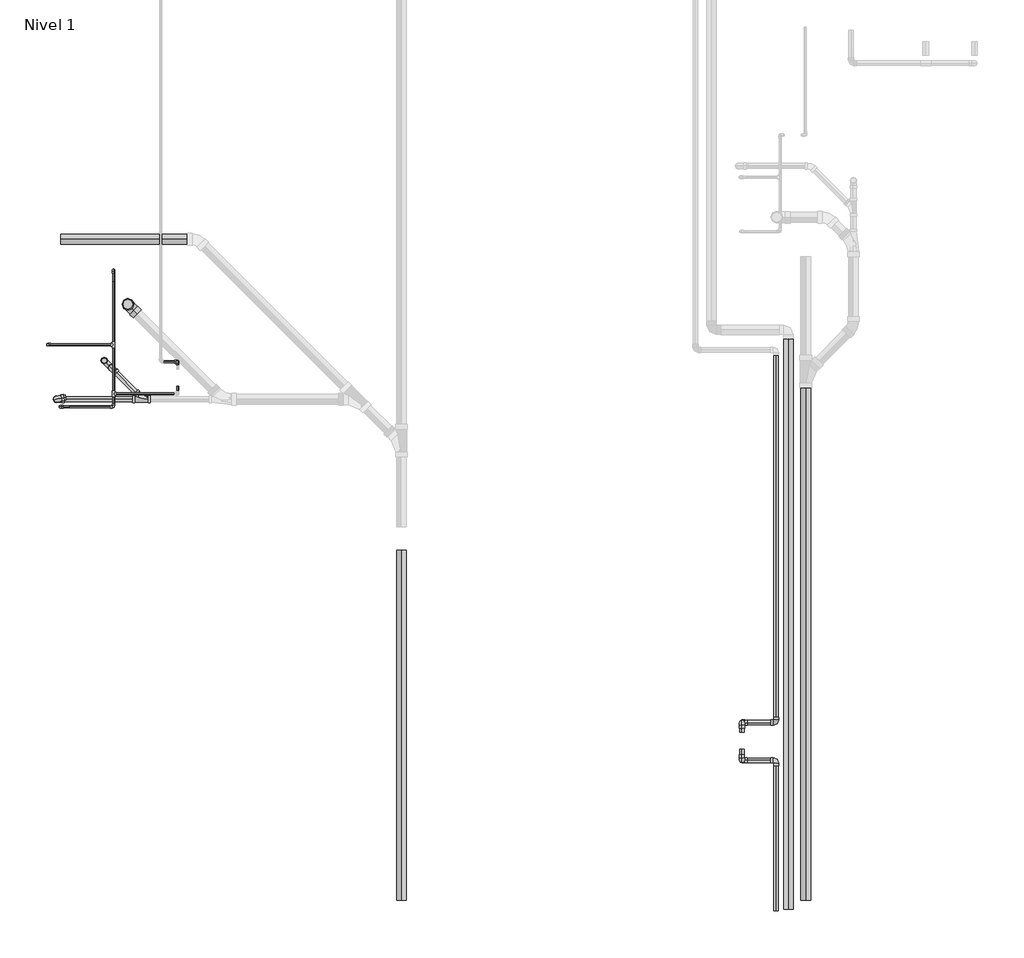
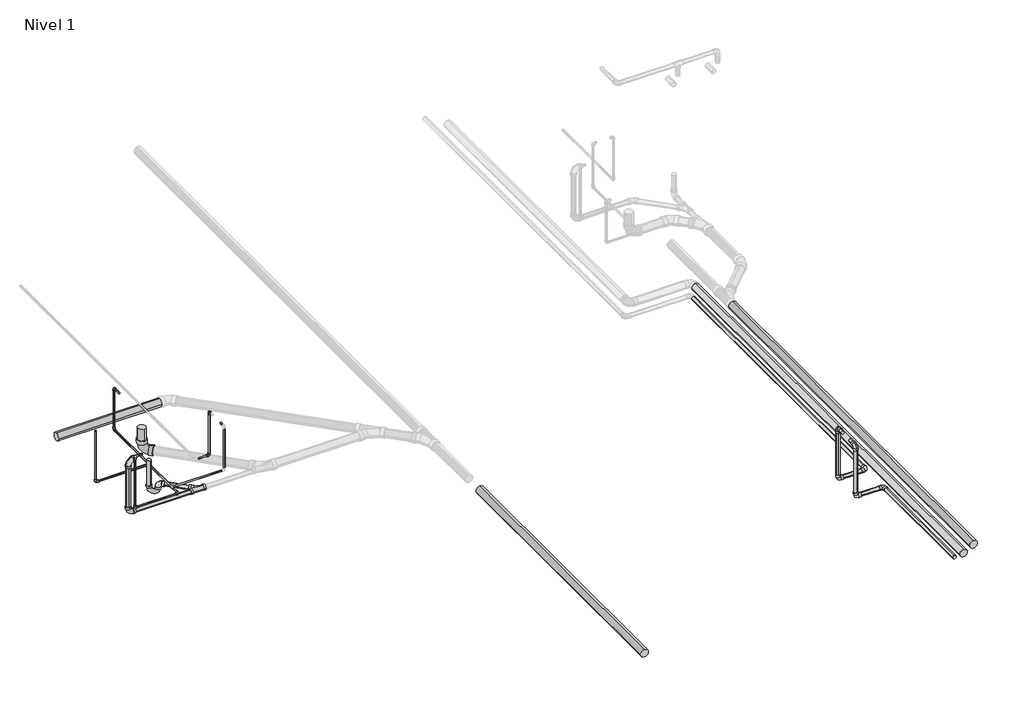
# One storey, part 1 of 3: 33 pipe segments, 21 pipe fittings.
"""IFC4 building model written with IfcOpenShell, lengths in millimetres."""

from ifc_helpers import new_model, si_unit, point, frame, frame_2d, origin, place, context, project, spatial, circle_curve, trimmed, segment, composite_curve, outline, extrude, transform, mapped, element, save
from components import pipe_fitting_38e3fb49, pipe_fitting_ab418b84, pipe_fitting_0163322b, m_codo_pvc_serie_40_457dd693, m_codo_pvc_serie_40_9ad74631, m_codo_pvc_serie_40_dwv1_5c0ec739, m_codo_pvc_serie_40_dwv1_f5c0a64d

model = new_model("IFC4")

# Units and contexts
model_context = context("Model", 3, world=origin())
ifc_project = project(units=[si_unit("LENGTHUNIT", "METRE", prefix="MILLI")], contexts=[model_context])

# Site, building, storey
site = spatial("IfcSite", under=ifc_project)
building = spatial("IfcBuilding", under=site)
storey = spatial("IfcBuildingStorey", under=building, Name="Nivel 1", Elevation=0.0)

# Pipe fittings
placement = place(None, origin())
pipe_fitting_shape = pipe_fitting_38e3fb49(model_context)
element("IfcPipeFitting", 1, ObjectType="M_Sifón P - PVC - Serie 40 - DWV : Estándar", at=placement, inside=storey, context=model_context, shape_type="MappedRepresentation", body=[
    mapped(pipe_fitting_shape, transform((-521.1850838, 5826.2235839, -300.0), x_axis=(0.0, 0.0, -1.0), y_axis=(0.7071067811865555, -0.7071067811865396, 0.0), z_axis=(-0.7071067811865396, -0.7071067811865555, 0.0))),
])
pipe_fitting_2_shape = pipe_fitting_ab418b84(model_context)
element("IfcPipeFitting", 2, ObjectType="M_Te - PVC - Serie 40 : Estándar", at=placement, inside=storey, context=model_context, shape_type="MappedRepresentation", body=[
    mapped(pipe_fitting_2_shape, transform((-421.8784649, 5995.8247976, -200.0), x_axis=(0.0, 1.0, 0.0), y_axis=(1.0, 0.0, 0.0), z_axis=(0.0, 0.0, -1.0))),
])
element("IfcPipeFitting", 3, ObjectType="M_Te - PVC - Serie 40 : Estándar", at=placement, inside=storey, context=model_context, shape_type="MappedRepresentation", body=[
    mapped(pipe_fitting_2_shape, transform((-421.8784649, 5473.5673351, -200.0), x_axis=(0.0, 1.0, 0.0), y_axis=(-1.0, 0.0, 0.0), z_axis=(0.0, 0.0, 1.0))),
])
pipe_fitting_3_shape = pipe_fitting_0163322b(model_context)
element("IfcPipeFitting", 4, ObjectType="M_Sanitario con te de reducción - PVC - Serie 40 - DWV : Estándar", at=placement, inside=storey, context=model_context, shape_type="MappedRepresentation", body=[
    mapped(pipe_fitting_3_shape, transform((-109.570791, 5414.609291, -300.0), x_axis=(-1.0, 0.0, 0.0), y_axis=(0.0, -1.0, 0.0), z_axis=(0.0, 0.0, 1.0))),
])
m_codo_pvc_serie_40_shape = m_codo_pvc_serie_40_457dd693(model_context)
element("IfcPipeFitting", 5, ObjectType="M_Codo - PVC - Serie 40 : Estándar", at=placement, inside=storey, context=model_context, shape_type="MappedRepresentation", body=[
    mapped(m_codo_pvc_serie_40_shape, transform((6636.38473, 1568.071763, -300.0), x_axis=(0.0, 1.0, 0.0), y_axis=(-1.0, 0.0, 0.0), z_axis=(0.0, 0.0, 1.0))),
])
element("IfcPipeFitting", 6, ObjectType="M_Codo - PVC - Serie 40 : Estándar", at=placement, inside=storey, context=model_context, shape_type="MappedRepresentation", body=[
    mapped(m_codo_pvc_serie_40_shape, transform((6271.38473, 1568.071763, -300.0), x_axis=(-1.0, 0.0, 0.0), y_axis=(0.0, 0.0, 1.0), z_axis=(0.0, 1.0, 0.0))),
])
element("IfcPipeFitting", 7, ObjectType="M_Codo - PVC - Serie 40 : Estándar", at=placement, inside=storey, context=model_context, shape_type="MappedRepresentation", body=[
    mapped(m_codo_pvc_serie_40_shape, transform((6271.38473, 1568.071763, 400.0), x_axis=(0.0, 0.0, 1.0), y_axis=(0.0, 1.0, 0.0), z_axis=(-1.0, 0.0, 0.0))),
])
element("IfcPipeFitting", 8, ObjectType="M_Codo - PVC - Serie 40 : Estándar", at=placement, inside=storey, context=model_context, shape_type="MappedRepresentation", body=[
    mapped(m_codo_pvc_serie_40_shape, transform((6271.38473, 1970.1540755, 400.0), x_axis=(0.0, 1.0, 0.0), y_axis=(0.0, 0.0, -1.0), z_axis=(-1.0, 0.0, 0.0))),
])
element("IfcPipeFitting", 9, ObjectType="M_Codo - PVC - Serie 40 : Estándar", at=placement, inside=storey, context=model_context, shape_type="MappedRepresentation", body=[
    mapped(m_codo_pvc_serie_40_shape, transform((6636.38473, 1970.1540755, -300.0), x_axis=(1.0, 0.0, 0.0), y_axis=(0.0, 1.0, 0.0), z_axis=(0.0, 0.0, 1.0))),
])
element("IfcPipeFitting", 10, ObjectType="M_Codo - PVC - Serie 40 : Estándar", at=placement, inside=storey, context=model_context, shape_type="MappedRepresentation", body=[
    mapped(m_codo_pvc_serie_40_shape, transform((6271.38473, 1970.1540755, -300.0), x_axis=(0.0, 0.0, -1.0), y_axis=(1.0, 0.0, 0.0), z_axis=(0.0, -1.0, 0.0))),
])
m_codo_pvc_serie_40_2_shape = m_codo_pvc_serie_40_9ad74631(model_context)
element("IfcPipeFitting", 11, ObjectType="M_Codo - PVC - Serie 40 : Estándar", at=placement, inside=storey, context=model_context, shape_type="MappedRepresentation", body=[
    mapped(m_codo_pvc_serie_40_2_shape, transform((-988.9787071, 5334.0247537, 507.4993614), x_axis=(-1.0, 0.0, 0.0), y_axis=(0.0, 0.0, -1.0), z_axis=(0.0, -1.0, 0.0))),
])
element("IfcPipeFitting", 12, ObjectType="M_Codo - PVC - Serie 40 : Estándar", at=placement, inside=storey, context=model_context, shape_type="MappedRepresentation", body=[
    mapped(m_codo_pvc_serie_40_2_shape, transform((-421.8784649, 6791.8140991, 373.1572509), x_axis=(0.0, 1.0, 0.0), y_axis=(0.0, 0.0, -1.0), z_axis=(-1.0, 0.0, 0.0))),
])
element("IfcPipeFitting", 13, ObjectType="M_Codo - PVC - Serie 40 : Estándar", at=placement, inside=storey, context=model_context, shape_type="MappedRepresentation", body=[
    mapped(m_codo_pvc_serie_40_2_shape, transform((-421.8784649, 6791.8140991, -200.0), x_axis=(0.0, 0.0, -1.0), y_axis=(0.0, -1.0, 0.0), z_axis=(-1.0, 0.0, 0.0))),
])
element("IfcPipeFitting", 14, ObjectType="M_Codo - PVC - Serie 40 : Estándar", at=placement, inside=storey, context=model_context, shape_type="MappedRepresentation", body=[
    mapped(m_codo_pvc_serie_40_2_shape, transform((-1121.8784649, 5995.8247976, -200.0), x_axis=(-1.0, 0.0, 0.0), y_axis=(0.0, 0.0, 1.0), z_axis=(0.0, 1.0, 0.0))),
])
element("IfcPipeFitting", 15, ObjectType="M_Codo - PVC - Serie 40 : Estándar", at=placement, inside=storey, context=model_context, shape_type="MappedRepresentation", body=[
    mapped(m_codo_pvc_serie_40_2_shape, transform((260.4324714, 5813.5673351, -200.0), x_axis=(1.0, 0.0, 0.0), y_axis=(0.0, 0.0, 1.0), z_axis=(0.0, -1.0, 0.0))),
])
element("IfcPipeFitting", 16, ObjectType="M_Codo - PVC - Serie 40 : Estándar", at=placement, inside=storey, context=model_context, shape_type="MappedRepresentation", body=[
    mapped(m_codo_pvc_serie_40_2_shape, transform((260.4324714, 5813.5673351, 400.0), x_axis=(0.0, 0.0, 1.0), y_axis=(0.0, -1.0, 0.0), z_axis=(1.0, 0.0, 0.0))),
])
element("IfcPipeFitting", 17, ObjectType="M_Codo - PVC - Serie 40 : Estándar", at=placement, inside=storey, context=model_context, shape_type="MappedRepresentation", body=[
    mapped(m_codo_pvc_serie_40_2_shape, transform((-421.8784649, 5334.0247537, -200.0), x_axis=(1.0, 0.0, 0.0), y_axis=(0.0, 1.0, 0.0), z_axis=(0.0, 0.0, 1.0))),
])
element("IfcPipeFitting", 18, ObjectType="M_Codo - PVC - Serie 40 : Estándar", at=placement, inside=storey, context=model_context, shape_type="MappedRepresentation", body=[
    mapped(m_codo_pvc_serie_40_2_shape, transform((-988.9787071, 5334.0247537, -200.0), x_axis=(0.0, 0.0, -1.0), y_axis=(1.0, 0.0, 0.0), z_axis=(0.0, -1.0, 0.0))),
])
m_codo_pvc_serie_40_dwv1_shape = m_codo_pvc_serie_40_dwv1_5c0ec739(model_context)
element("IfcPipeFitting", 19, ObjectType="M_Codo - PVC - Serie 40 - DWV1 : Estándar 2", at=placement, inside=storey, context=model_context, shape_type="MappedRepresentation", body=[
    mapped(m_codo_pvc_serie_40_dwv1_shape, transform((-1030.8121734, 5414.609291, 410.6716548), x_axis=(-0.9772986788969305, -0.21186621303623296, 0.0), y_axis=(0.0, 0.0, -1.0), z_axis=(0.21186621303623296, -0.9772986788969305, 0.0))),
])
element("IfcPipeFitting", 20, ObjectType="M_Codo - PVC - Serie 40 - DWV1 : Estándar 2", at=placement, inside=storey, context=model_context, shape_type="MappedRepresentation", body=[
    mapped(m_codo_pvc_serie_40_dwv1_shape, transform((-1030.8121734, 5414.609291, -300.0), x_axis=(0.0, 0.0, -1.0), y_axis=(1.0, 0.0, 0.0), z_axis=(0.0, -1.0, 0.0))),
])
m_codo_pvc_serie_40_dwv1_2_shape = m_codo_pvc_serie_40_dwv1_f5c0a64d(model_context)
element("IfcPipeFitting", 21, ObjectType="M_Codo - PVC - Serie 40 - DWV1 : Estándar 2", at=placement, inside=storey, context=model_context, shape_type="MappedRepresentation", body=[
    mapped(m_codo_pvc_serie_40_dwv1_2_shape, transform((-268.3960274, 6425.7039726, -300.0), x_axis=(0.0, 0.0, -1.0), y_axis=(0.7071067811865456, -0.7071067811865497, 0.0), z_axis=(-0.7071067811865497, -0.7071067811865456, 0.0))),
])

# Pipe segments
element("IfcPipeSegment", 22, ObjectType="Tuberia PVC Agua Fria", at=placement, inside=storey, context=model_context, shape_type="SweptSolid", body=[
    extrude(outline(composite_curve([segment(trimmed(circle_curve(frame_2d((-300.0, 6636.38473)), 23.8125), [point((-300.0, 6660.19723))], [point((-276.1875, 6636.38473))], False, "CARTESIAN"), True, "CONTINUOUS"), segment(trimmed(circle_curve(frame_2d((-300.0, 6636.38473)), 23.8125), [point((-276.1875, 6636.38473))], [point((-300.0, 6612.57223))], False, "CARTESIAN"), True, "CONTINUOUS"), segment(trimmed(circle_curve(frame_2d((-300.0, 6636.38473)), 23.8125), [point((-300.0, 6612.57223))], [point((-323.8125, 6636.38473))], False, "CARTESIAN"), True, "CONTINUOUS"), segment(trimmed(circle_curve(frame_2d((-300.0, 6636.38473)), 23.8125), [point((-323.8125, 6636.38473))], [point((-300.0, 6660.19723))], False, "CARTESIAN"), True, "CONTINUOUS")], self_intersect=False)), frame((0.0, 2029.0820755, 0.0), z_axis=(0.0, 1.0, 0.0), x_axis=(0.0, 0.0, 1.0)), (0.0, 0.0, 1.0), 3852.144),
])
element("IfcPipeSegment", 23, ObjectType="Tuberia PVC Agua Fria", at=placement, inside=storey, context=model_context, shape_type="SweptSolid", body=[
    extrude(outline(composite_curve([segment(trimmed(circle_curve(frame_2d((-300.0, 6636.38473)), 23.8125), [point((-300.0, 6660.19723))], [point((-276.1875, 6636.38473))], False, "CARTESIAN"), True, "CONTINUOUS"), segment(trimmed(circle_curve(frame_2d((-300.0, 6636.38473)), 23.8125), [point((-276.1875, 6636.38473))], [point((-300.0, 6612.57223))], False, "CARTESIAN"), True, "CONTINUOUS"), segment(trimmed(circle_curve(frame_2d((-300.0, 6636.38473)), 23.8125), [point((-300.0, 6612.57223))], [point((-323.8125, 6636.38473))], False, "CARTESIAN"), True, "CONTINUOUS"), segment(trimmed(circle_curve(frame_2d((-300.0, 6636.38473)), 23.8125), [point((-323.8125, 6636.38473))], [point((-300.0, 6660.19723))], False, "CARTESIAN"), True, "CONTINUOUS")], self_intersect=False)), frame((0.0, -36.8287995, 0.0), z_axis=(0.0, 1.0, 0.0), x_axis=(0.0, 0.0, 1.0)), (0.0, 0.0, 1.0), 1545.9725625),
])
element("IfcPipeSegment", 24, ObjectType="Tuberia PVC Agua Fria", at=placement, inside=storey, context=model_context, shape_type="SweptSolid", body=[
    extrude(outline(composite_curve([segment(trimmed(circle_curve(frame_2d((1568.071763, -300.0)), 23.8125), [point((1591.884263, -300.0))], [point((1568.071763, -323.8125))], False, "CARTESIAN"), True, "CONTINUOUS"), segment(trimmed(circle_curve(frame_2d((1568.071763, -300.0)), 23.8125), [point((1568.071763, -323.8125))], [point((1544.259263, -300.0))], False, "CARTESIAN"), True, "CONTINUOUS"), segment(trimmed(circle_curve(frame_2d((1568.071763, -300.0)), 23.8125), [point((1544.259263, -300.0))], [point((1568.071763, -276.1875))], False, "CARTESIAN"), True, "CONTINUOUS"), segment(trimmed(circle_curve(frame_2d((1568.071763, -300.0)), 23.8125), [point((1568.071763, -276.1875))], [point((1591.884263, -300.0))], False, "CARTESIAN"), True, "CONTINUOUS")], self_intersect=False)), frame((6330.31273, 0.0, 0.0), z_axis=(1.0, 0.0, 0.0), x_axis=(0.0, 1.0, 0.0)), (0.0, 0.0, 1.0), 247.144),
])
element("IfcPipeSegment", 25, ObjectType="Tuberia PVC Agua Fria", at=placement, inside=storey, context=model_context, shape_type="SweptSolid", body=[
    extrude(outline(composite_curve([segment(trimmed(circle_curve(frame_2d((400.0, 6271.38473)), 23.8125), [point((400.0, 6295.19723))], [point((423.8125, 6271.38473))], False, "CARTESIAN"), True, "CONTINUOUS"), segment(trimmed(circle_curve(frame_2d((400.0, 6271.38473)), 23.8125), [point((423.8125, 6271.38473))], [point((400.0, 6247.57223))], False, "CARTESIAN"), True, "CONTINUOUS"), segment(trimmed(circle_curve(frame_2d((400.0, 6271.38473)), 23.8125), [point((400.0, 6247.57223))], [point((376.1875, 6271.38473))], False, "CARTESIAN"), True, "CONTINUOUS"), segment(trimmed(circle_curve(frame_2d((400.0, 6271.38473)), 23.8125), [point((376.1875, 6271.38473))], [point((400.0, 6295.19723))], False, "CARTESIAN"), True, "CONTINUOUS")], self_intersect=False)), frame((0.0, 1865.6129192, 0.0), z_axis=(0.0, 1.0, 0.0), x_axis=(0.0, 0.0, 1.0)), (0.0, 0.0, 1.0), 45.6131563),
])
element("IfcPipeSegment", 26, ObjectType="Tuberia PVC Agua Fria", at=placement, inside=storey, context=model_context, shape_type="SweptSolid", body=[
    extrude(outline(composite_curve([segment(trimmed(circle_curve(frame_2d((6271.38473, 1568.071763)), 23.8125), [point((6247.57223, 1568.071763))], [point((6271.38473, 1591.884263))], False, "CARTESIAN"), True, "CONTINUOUS"), segment(trimmed(circle_curve(frame_2d((6271.38473, 1568.071763)), 23.8125), [point((6271.38473, 1591.884263))], [point((6295.19723, 1568.071763))], False, "CARTESIAN"), True, "CONTINUOUS"), segment(trimmed(circle_curve(frame_2d((6271.38473, 1568.071763)), 23.8125), [point((6295.19723, 1568.071763))], [point((6271.38473, 1544.259263))], False, "CARTESIAN"), True, "CONTINUOUS"), segment(trimmed(circle_curve(frame_2d((6271.38473, 1568.071763)), 23.8125), [point((6271.38473, 1544.259263))], [point((6247.57223, 1568.071763))], False, "CARTESIAN"), True, "CONTINUOUS")], self_intersect=False)), frame((0.0, 0.0, -241.072), z_axis=(0.0, 0.0, 1.0), x_axis=(1.0, 0.0, 0.0)), (0.0, 0.0, 1.0), 582.144),
])
element("IfcPipeSegment", 27, ObjectType="Tuberia PVC Agua Fria", at=placement, inside=storey, context=model_context, shape_type="SweptSolid", body=[
    extrude(outline(composite_curve([segment(trimmed(circle_curve(frame_2d((1970.1540755, -300.0)), 23.8125), [point((1993.9665755, -300.0))], [point((1970.1540755, -323.8125))], False, "CARTESIAN"), True, "CONTINUOUS"), segment(trimmed(circle_curve(frame_2d((1970.1540755, -300.0)), 23.8125), [point((1970.1540755, -323.8125))], [point((1946.3415755, -300.0))], False, "CARTESIAN"), True, "CONTINUOUS"), segment(trimmed(circle_curve(frame_2d((1970.1540755, -300.0)), 23.8125), [point((1946.3415755, -300.0))], [point((1970.1540755, -276.1875))], False, "CARTESIAN"), True, "CONTINUOUS"), segment(trimmed(circle_curve(frame_2d((1970.1540755, -300.0)), 23.8125), [point((1970.1540755, -276.1875))], [point((1993.9665755, -300.0))], False, "CARTESIAN"), True, "CONTINUOUS")], self_intersect=False)), frame((6330.31273, 0.0, 0.0), z_axis=(1.0, 0.0, 0.0), x_axis=(0.0, 1.0, 0.0)), (0.0, 0.0, 1.0), 247.144),
])
element("IfcPipeSegment", 28, ObjectType="Tuberia PVC Agua Fria", at=placement, inside=storey, context=model_context, shape_type="SweptSolid", body=[
    extrude(outline(composite_curve([segment(trimmed(circle_curve(frame_2d((6271.38473, 1970.1540755)), 23.8125), [point((6295.19723, 1970.1540755))], [point((6271.38473, 1946.3415755))], False, "CARTESIAN"), True, "CONTINUOUS"), segment(trimmed(circle_curve(frame_2d((6271.38473, 1970.1540755)), 23.8125), [point((6271.38473, 1946.3415755))], [point((6247.57223, 1970.1540755))], False, "CARTESIAN"), True, "CONTINUOUS"), segment(trimmed(circle_curve(frame_2d((6271.38473, 1970.1540755)), 23.8125), [point((6247.57223, 1970.1540755))], [point((6271.38473, 1993.9665755))], False, "CARTESIAN"), True, "CONTINUOUS"), segment(trimmed(circle_curve(frame_2d((6271.38473, 1970.1540755)), 23.8125), [point((6271.38473, 1993.9665755))], [point((6295.19723, 1970.1540755))], False, "CARTESIAN"), True, "CONTINUOUS")], self_intersect=False)), frame((0.0, 0.0, -241.072), z_axis=(0.0, 0.0, 1.0), x_axis=(1.0, 0.0, 0.0)), (0.0, 0.0, 1.0), 582.144),
])
element("IfcPipeSegment", 29, ObjectType="Tuberia PVC Agua Fria", at=placement, inside=storey, context=model_context, shape_type="SweptSolid", body=[
    extrude(outline(composite_curve([segment(trimmed(circle_curve(frame_2d((5334.0247537, 507.4993614)), 10.31875), [point((5344.3435037, 507.4993614))], [point((5334.0247537, 497.1806114))], False, "CARTESIAN"), True, "CONTINUOUS"), segment(trimmed(circle_curve(frame_2d((5334.0247537, 507.4993614)), 10.31875), [point((5334.0247537, 497.1806114))], [point((5323.7060037, 507.4993614))], False, "CARTESIAN"), True, "CONTINUOUS"), segment(trimmed(circle_curve(frame_2d((5334.0247537, 507.4993614)), 10.31875), [point((5323.7060037, 507.4993614))], [point((5334.0247537, 517.8181114))], False, "CARTESIAN"), True, "CONTINUOUS"), segment(trimmed(circle_curve(frame_2d((5334.0247537, 507.4993614)), 10.31875), [point((5334.0247537, 517.8181114))], [point((5344.3435037, 507.4993614))], False, "CARTESIAN"), True, "CONTINUOUS")], self_intersect=False)), frame((-955.5777071, 0.0, 0.0), z_axis=(1.0, 0.0, 0.0), x_axis=(0.0, 1.0, 0.0)), (0.0, 0.0, 1.0), 61.599),
])
element("IfcPipeSegment", 30, ObjectType="Tuberia PVC Agua Fria", at=placement, inside=storey, context=model_context, shape_type="SweptSolid", body=[
    extrude(outline(composite_curve([segment(trimmed(circle_curve(frame_2d((5334.0247537, -200.0)), 10.31875), [point((5344.3435037, -200.0))], [point((5334.0247537, -210.31875))], False, "CARTESIAN"), True, "CONTINUOUS"), segment(trimmed(circle_curve(frame_2d((5334.0247537, -200.0)), 10.31875), [point((5334.0247537, -210.31875))], [point((5323.7060037, -200.0))], False, "CARTESIAN"), True, "CONTINUOUS"), segment(trimmed(circle_curve(frame_2d((5334.0247537, -200.0)), 10.31875), [point((5323.7060037, -200.0))], [point((5334.0247537, -189.68125))], False, "CARTESIAN"), True, "CONTINUOUS"), segment(trimmed(circle_curve(frame_2d((5334.0247537, -200.0)), 10.31875), [point((5334.0247537, -189.68125))], [point((5344.3435037, -200.0))], False, "CARTESIAN"), True, "CONTINUOUS")], self_intersect=False)), frame((-955.5777071, 0.0, 0.0), z_axis=(1.0, 0.0, 0.0), x_axis=(0.0, 1.0, 0.0)), (0.0, 0.0, 1.0), 500.2982422),
])
element("IfcPipeSegment", 31, ObjectType="Tuberia PVC Agua Fria", at=placement, inside=storey, context=model_context, shape_type="SweptSolid", body=[
    extrude(outline(composite_curve([segment(trimmed(circle_curve(frame_2d((-988.9787071, 5334.0247537)), 10.31875), [point((-978.6599571, 5334.0247537))], [point((-988.9787071, 5323.7060037))], False, "CARTESIAN"), True, "CONTINUOUS"), segment(trimmed(circle_curve(frame_2d((-988.9787071, 5334.0247537)), 10.31875), [point((-988.9787071, 5323.7060037))], [point((-999.2974571, 5334.0247537))], False, "CARTESIAN"), True, "CONTINUOUS"), segment(trimmed(circle_curve(frame_2d((-988.9787071, 5334.0247537)), 10.31875), [point((-999.2974571, 5334.0247537))], [point((-988.9787071, 5344.3435037))], False, "CARTESIAN"), True, "CONTINUOUS"), segment(trimmed(circle_curve(frame_2d((-988.9787071, 5334.0247537)), 10.31875), [point((-988.9787071, 5344.3435037))], [point((-978.6599571, 5334.0247537))], False, "CARTESIAN"), True, "CONTINUOUS")], self_intersect=False)), frame((0.0, 0.0, -166.599), z_axis=(0.0, 0.0, 1.0), x_axis=(1.0, 0.0, 0.0)), (0.0, 0.0, 1.0), 640.6973614),
])
element("IfcPipeSegment", 32, ObjectType="Tuberia PVC Agua Fria", at=placement, inside=storey, context=model_context, shape_type="SweptSolid", body=[
    extrude(outline(composite_curve([segment(trimmed(circle_curve(frame_2d((373.1572509, -421.8784649)), 10.31875), [point((373.1572509, -411.5597149))], [point((383.4760009, -421.8784649))], False, "CARTESIAN"), True, "CONTINUOUS"), segment(trimmed(circle_curve(frame_2d((373.1572509, -421.8784649)), 10.31875), [point((383.4760009, -421.8784649))], [point((373.1572509, -432.1972149))], False, "CARTESIAN"), True, "CONTINUOUS"), segment(trimmed(circle_curve(frame_2d((373.1572509, -421.8784649)), 10.31875), [point((373.1572509, -432.1972149))], [point((362.8385009, -421.8784649))], False, "CARTESIAN"), True, "CONTINUOUS"), segment(trimmed(circle_curve(frame_2d((373.1572509, -421.8784649)), 10.31875), [point((362.8385009, -421.8784649))], [point((373.1572509, -411.5597149))], False, "CARTESIAN"), True, "CONTINUOUS")], self_intersect=False)), frame((0.0, 6671.8140991, 0.0), z_axis=(0.0, 1.0, 0.0), x_axis=(0.0, 0.0, 1.0)), (0.0, 0.0, 1.0), 86.599),
])
element("IfcPipeSegment", 33, ObjectType="Tuberia PVC Agua Fria", at=placement, inside=storey, context=model_context, shape_type="SweptSolid", body=[
    extrude(outline(composite_curve([segment(trimmed(circle_curve(frame_2d((-421.8784649, 6791.8140991)), 10.31875), [point((-411.5597149, 6791.8140991))], [point((-421.8784649, 6781.4953491))], False, "CARTESIAN"), True, "CONTINUOUS"), segment(trimmed(circle_curve(frame_2d((-421.8784649, 6791.8140991)), 10.31875), [point((-421.8784649, 6781.4953491))], [point((-432.1972149, 6791.8140991))], False, "CARTESIAN"), True, "CONTINUOUS"), segment(trimmed(circle_curve(frame_2d((-421.8784649, 6791.8140991)), 10.31875), [point((-432.1972149, 6791.8140991))], [point((-421.8784649, 6802.1328491))], False, "CARTESIAN"), True, "CONTINUOUS"), segment(trimmed(circle_curve(frame_2d((-421.8784649, 6791.8140991)), 10.31875), [point((-421.8784649, 6802.1328491))], [point((-411.5597149, 6791.8140991))], False, "CARTESIAN"), True, "CONTINUOUS")], self_intersect=False)), frame((0.0, 0.0, -166.599), z_axis=(0.0, 0.0, 1.0), x_axis=(1.0, 0.0, 0.0)), (0.0, 0.0, 1.0), 506.3552509),
])
element("IfcPipeSegment", 34, ObjectType="Tuberia PVC Agua Fria", at=placement, inside=storey, context=model_context, shape_type="SweptSolid", body=[
    extrude(outline(composite_curve([segment(trimmed(circle_curve(frame_2d((5995.8247976, -200.0)), 10.31875), [point((6006.1435476, -200.0))], [point((5995.8247976, -210.31875))], False, "CARTESIAN"), True, "CONTINUOUS"), segment(trimmed(circle_curve(frame_2d((5995.8247976, -200.0)), 10.31875), [point((5995.8247976, -210.31875))], [point((5985.5060476, -200.0))], False, "CARTESIAN"), True, "CONTINUOUS"), segment(trimmed(circle_curve(frame_2d((5995.8247976, -200.0)), 10.31875), [point((5985.5060476, -200.0))], [point((5995.8247976, -189.68125))], False, "CARTESIAN"), True, "CONTINUOUS"), segment(trimmed(circle_curve(frame_2d((5995.8247976, -200.0)), 10.31875), [point((5995.8247976, -189.68125))], [point((6006.1435476, -200.0))], False, "CARTESIAN"), True, "CONTINUOUS")], self_intersect=False)), frame((-1088.4774649, 0.0, 0.0), z_axis=(1.0, 0.0, 0.0), x_axis=(0.0, 1.0, 0.0)), (0.0, 0.0, 1.0), 636.1388438),
])
element("IfcPipeSegment", 35, ObjectType="Tuberia PVC Agua Fria", at=placement, inside=storey, context=model_context, shape_type="SweptSolid", body=[
    extrude(outline(composite_curve([segment(trimmed(circle_curve(frame_2d((-200.0, -421.8784649)), 10.31875), [point((-200.0, -432.1972149))], [point((-210.31875, -421.8784649))], False, "CARTESIAN"), True, "CONTINUOUS"), segment(trimmed(circle_curve(frame_2d((-200.0, -421.8784649)), 10.31875), [point((-210.31875, -421.8784649))], [point((-200.0, -411.5597149))], False, "CARTESIAN"), True, "CONTINUOUS"), segment(trimmed(circle_curve(frame_2d((-200.0, -421.8784649)), 10.31875), [point((-200.0, -411.5597149))], [point((-189.68125, -421.8784649))], False, "CARTESIAN"), True, "CONTINUOUS"), segment(trimmed(circle_curve(frame_2d((-200.0, -421.8784649)), 10.31875), [point((-189.68125, -421.8784649))], [point((-200.0, -432.1972149))], False, "CARTESIAN"), True, "CONTINUOUS")], self_intersect=False)), frame((0.0, 6026.2849538, 0.0), z_axis=(0.0, 1.0, 0.0), x_axis=(0.0, 0.0, 1.0)), (0.0, 0.0, 1.0), 732.1281453),
])
element("IfcPipeSegment", 36, ObjectType="Tuberia PVC Agua Fria", at=placement, inside=storey, context=model_context, shape_type="SweptSolid", body=[
    extrude(outline(composite_curve([segment(trimmed(circle_curve(frame_2d((-1121.8784649, 5995.8247976)), 10.31875), [point((-1111.5597149, 5995.8247976))], [point((-1121.8784649, 5985.5060476))], False, "CARTESIAN"), True, "CONTINUOUS"), segment(trimmed(circle_curve(frame_2d((-1121.8784649, 5995.8247976)), 10.31875), [point((-1121.8784649, 5985.5060476))], [point((-1132.1972149, 5995.8247976))], False, "CARTESIAN"), True, "CONTINUOUS"), segment(trimmed(circle_curve(frame_2d((-1121.8784649, 5995.8247976)), 10.31875), [point((-1132.1972149, 5995.8247976))], [point((-1121.8784649, 6006.1435476))], False, "CARTESIAN"), True, "CONTINUOUS"), segment(trimmed(circle_curve(frame_2d((-1121.8784649, 5995.8247976)), 10.31875), [point((-1121.8784649, 6006.1435476))], [point((-1111.5597149, 5995.8247976))], False, "CARTESIAN"), True, "CONTINUOUS")], self_intersect=False)), frame((0.0, 0.0, -166.599), z_axis=(0.0, 0.0, 1.0), x_axis=(1.0, 0.0, 0.0)), (0.0, 0.0, 1.0), 674.0983614),
])
element("IfcPipeSegment", 37, ObjectType="Tuberia PVC Agua Fria", at=placement, inside=storey, context=model_context, shape_type="SweptSolid", body=[
    extrude(outline(composite_curve([segment(trimmed(circle_curve(frame_2d((5813.5673351, -200.0)), 10.31875), [point((5803.2485851, -200.0))], [point((5813.5673351, -189.68125))], False, "CARTESIAN"), True, "CONTINUOUS"), segment(trimmed(circle_curve(frame_2d((5813.5673351, -200.0)), 10.31875), [point((5813.5673351, -189.68125))], [point((5823.8860851, -200.0))], False, "CARTESIAN"), True, "CONTINUOUS"), segment(trimmed(circle_curve(frame_2d((5813.5673351, -200.0)), 10.31875), [point((5823.8860851, -200.0))], [point((5813.5673351, -210.31875))], False, "CARTESIAN"), True, "CONTINUOUS"), segment(trimmed(circle_curve(frame_2d((5813.5673351, -200.0)), 10.31875), [point((5813.5673351, -210.31875))], [point((5803.2485851, -200.0))], False, "CARTESIAN"), True, "CONTINUOUS")], self_intersect=False)), frame((113.8334714, 0.0, 0.0), z_axis=(1.0, 0.0, 0.0), x_axis=(0.0, 1.0, 0.0)), (0.0, 0.0, 1.0), 113.198),
])
element("IfcPipeSegment", 38, ObjectType="Tuberia PVC Agua Fria", at=placement, inside=storey, context=model_context, shape_type="SweptSolid", body=[
    extrude(outline(composite_curve([segment(trimmed(circle_curve(frame_2d((400.0, 260.4324714)), 10.31875), [point((400.0, 250.1137214))], [point((389.68125, 260.4324714))], False, "CARTESIAN"), True, "CONTINUOUS"), segment(trimmed(circle_curve(frame_2d((400.0, 260.4324714)), 10.31875), [point((389.68125, 260.4324714))], [point((400.0, 270.7512214))], False, "CARTESIAN"), True, "CONTINUOUS"), segment(trimmed(circle_curve(frame_2d((400.0, 260.4324714)), 10.31875), [point((400.0, 270.7512214))], [point((410.31875, 260.4324714))], False, "CARTESIAN"), True, "CONTINUOUS"), segment(trimmed(circle_curve(frame_2d((400.0, 260.4324714)), 10.31875), [point((410.31875, 260.4324714))], [point((400.0, 250.1137214))], False, "CARTESIAN"), True, "CONTINUOUS")], self_intersect=False)), frame((0.0, 5506.9683351, 0.0), z_axis=(0.0, 1.0, 0.0), x_axis=(0.0, 0.0, 1.0)), (0.0, 0.0, 1.0), 47.599),
])
element("IfcPipeSegment", 39, ObjectType="Tuberia PVC Agua Fria", at=placement, inside=storey, context=model_context, shape_type="SweptSolid", body=[
    extrude(outline(composite_curve([segment(trimmed(circle_curve(frame_2d((260.4324714, 5813.5673351)), 10.31875), [point((250.1137214, 5813.5673351))], [point((260.4324714, 5823.8860851))], False, "CARTESIAN"), True, "CONTINUOUS"), segment(trimmed(circle_curve(frame_2d((260.4324714, 5813.5673351)), 10.31875), [point((260.4324714, 5823.8860851))], [point((270.7512214, 5813.5673351))], False, "CARTESIAN"), True, "CONTINUOUS"), segment(trimmed(circle_curve(frame_2d((260.4324714, 5813.5673351)), 10.31875), [point((270.7512214, 5813.5673351))], [point((260.4324714, 5803.2485851))], False, "CARTESIAN"), True, "CONTINUOUS"), segment(trimmed(circle_curve(frame_2d((260.4324714, 5813.5673351)), 10.31875), [point((260.4324714, 5803.2485851))], [point((250.1137214, 5813.5673351))], False, "CARTESIAN"), True, "CONTINUOUS")], self_intersect=False)), frame((0.0, 0.0, -166.599), z_axis=(0.0, 0.0, 1.0), x_axis=(1.0, 0.0, 0.0)), (0.0, 0.0, 1.0), 533.198),
])
element("IfcPipeSegment", 40, ObjectType="Tuberia PVC Agua Fria", at=placement, inside=storey, context=model_context, shape_type="SweptSolid", body=[
    extrude(outline(composite_curve([segment(trimmed(circle_curve(frame_2d((5473.5673351, -200.0)), 10.31875), [point((5483.8860851, -200.0))], [point((5473.5673351, -210.31875))], False, "CARTESIAN"), True, "CONTINUOUS"), segment(trimmed(circle_curve(frame_2d((5473.5673351, -200.0)), 10.31875), [point((5473.5673351, -210.31875))], [point((5463.2485851, -200.0))], False, "CARTESIAN"), True, "CONTINUOUS"), segment(trimmed(circle_curve(frame_2d((5473.5673351, -200.0)), 10.31875), [point((5463.2485851, -200.0))], [point((5473.5673351, -189.68125))], False, "CARTESIAN"), True, "CONTINUOUS"), segment(trimmed(circle_curve(frame_2d((5473.5673351, -200.0)), 10.31875), [point((5473.5673351, -189.68125))], [point((5483.8860851, -200.0))], False, "CARTESIAN"), True, "CONTINUOUS")], self_intersect=False)), frame((-391.4183086, 0.0, 0.0), z_axis=(1.0, 0.0, 0.0), x_axis=(0.0, 1.0, 0.0)), (0.0, 0.0, 1.0), 618.44978),
])
element("IfcPipeSegment", 41, ObjectType="Tuberia PVC Agua Fria", at=placement, inside=storey, context=model_context, shape_type="SweptSolid", body=[
    extrude(outline(composite_curve([segment(trimmed(circle_curve(frame_2d((260.4324714, 5473.5673351)), 10.31875), [point((270.7512214, 5473.5673351))], [point((260.4324714, 5463.2485851))], False, "CARTESIAN"), True, "CONTINUOUS"), segment(trimmed(circle_curve(frame_2d((260.4324714, 5473.5673351)), 10.31875), [point((260.4324714, 5463.2485851))], [point((250.1137214, 5473.5673351))], False, "CARTESIAN"), True, "CONTINUOUS"), segment(trimmed(circle_curve(frame_2d((260.4324714, 5473.5673351)), 10.31875), [point((250.1137214, 5473.5673351))], [point((260.4324714, 5483.8860851))], False, "CARTESIAN"), True, "CONTINUOUS"), segment(trimmed(circle_curve(frame_2d((260.4324714, 5473.5673351)), 10.31875), [point((260.4324714, 5483.8860851))], [point((270.7512214, 5473.5673351))], False, "CARTESIAN"), True, "CONTINUOUS")], self_intersect=False)), frame((0.0, 0.0, -166.599), z_axis=(0.0, 0.0, 1.0), x_axis=(1.0, 0.0, 0.0)), (0.0, 0.0, 1.0), 533.198),
])
element("IfcPipeSegment", 42, ObjectType="Tuberia PVC Agua Fria", at=placement, inside=storey, context=model_context, shape_type="SweptSolid", body=[
    extrude(outline(composite_curve([segment(trimmed(circle_curve(frame_2d((-200.0, -421.8784649)), 10.31875), [point((-200.0, -432.1972149))], [point((-210.31875, -421.8784649))], False, "CARTESIAN"), True, "CONTINUOUS"), segment(trimmed(circle_curve(frame_2d((-200.0, -421.8784649)), 10.31875), [point((-210.31875, -421.8784649))], [point((-200.0, -411.5597149))], False, "CARTESIAN"), True, "CONTINUOUS"), segment(trimmed(circle_curve(frame_2d((-200.0, -421.8784649)), 10.31875), [point((-200.0, -411.5597149))], [point((-189.68125, -421.8784649))], False, "CARTESIAN"), True, "CONTINUOUS"), segment(trimmed(circle_curve(frame_2d((-200.0, -421.8784649)), 10.31875), [point((-189.68125, -421.8784649))], [point((-200.0, -432.1972149))], False, "CARTESIAN"), True, "CONTINUOUS")], self_intersect=False)), frame((0.0, 5367.4257537, 0.0), z_axis=(0.0, 1.0, 0.0), x_axis=(0.0, 0.0, 1.0)), (0.0, 0.0, 1.0), 75.6814252),
])
element("IfcPipeSegment", 43, ObjectType="Tuberia PVC Agua Fria", at=placement, inside=storey, context=model_context, shape_type="SweptSolid", body=[
    extrude(outline(composite_curve([segment(trimmed(circle_curve(frame_2d((-200.0, -421.8784649)), 10.31875), [point((-200.0, -432.1972149))], [point((-210.31875, -421.8784649))], False, "CARTESIAN"), True, "CONTINUOUS"), segment(trimmed(circle_curve(frame_2d((-200.0, -421.8784649)), 10.31875), [point((-210.31875, -421.8784649))], [point((-200.0, -411.5597149))], False, "CARTESIAN"), True, "CONTINUOUS"), segment(trimmed(circle_curve(frame_2d((-200.0, -421.8784649)), 10.31875), [point((-200.0, -411.5597149))], [point((-189.68125, -421.8784649))], False, "CARTESIAN"), True, "CONTINUOUS"), segment(trimmed(circle_curve(frame_2d((-200.0, -421.8784649)), 10.31875), [point((-189.68125, -421.8784649))], [point((-200.0, -432.1972149))], False, "CARTESIAN"), True, "CONTINUOUS")], self_intersect=False)), frame((0.0, 5504.0274914, 0.0), z_axis=(0.0, 1.0, 0.0), x_axis=(0.0, 0.0, 1.0)), (0.0, 0.0, 1.0), 461.3371499),
])
element("IfcPipeSegment", 44, ObjectType="Tuberia PVC Agua Fria", at=placement, inside=storey, context=model_context, shape_type="SweptSolid", body=[
    extrude(outline(composite_curve([segment(trimmed(circle_curve(frame_2d((-300.0, 6768.0875801)), 49.2125), [point((-300.0, 6817.3000801))], [point((-250.7875, 6768.0875801))], False, "CARTESIAN"), True, "CONTINUOUS"), segment(trimmed(circle_curve(frame_2d((-300.0, 6768.0875801)), 49.2125), [point((-250.7875, 6768.0875801))], [point((-300.0, 6718.8750801))], False, "CARTESIAN"), True, "CONTINUOUS"), segment(trimmed(circle_curve(frame_2d((-300.0, 6768.0875801)), 49.2125), [point((-300.0, 6718.8750801))], [point((-349.2125, 6768.0875801))], False, "CARTESIAN"), True, "CONTINUOUS"), segment(trimmed(circle_curve(frame_2d((-300.0, 6768.0875801)), 49.2125), [point((-349.2125, 6768.0875801))], [point((-300.0, 6817.3000801))], False, "CARTESIAN"), True, "CONTINUOUS")], self_intersect=False)), frame((0.0, -19.6910336, 0.0), z_axis=(0.0, 1.0, 0.0), x_axis=(0.0, 0.0, 1.0)), (0.0, 0.0, 1.0), 6076.0375625),
])
element("IfcPipeSegment", 45, ObjectType="Tuberia PVC Agua Fria", at=placement, inside=storey, context=model_context, shape_type="SweptSolid", body=[
    extrude(outline(composite_curve([segment(trimmed(circle_curve(frame_2d((400.0, 6271.38473)), 23.8125), [point((400.0, 6295.19723))], [point((423.8125, 6271.38473))], False, "CARTESIAN"), True, "CONTINUOUS"), segment(trimmed(circle_curve(frame_2d((400.0, 6271.38473)), 23.8125), [point((423.8125, 6271.38473))], [point((400.0, 6247.57223))], False, "CARTESIAN"), True, "CONTINUOUS"), segment(trimmed(circle_curve(frame_2d((400.0, 6271.38473)), 23.8125), [point((400.0, 6247.57223))], [point((376.1875, 6271.38473))], False, "CARTESIAN"), True, "CONTINUOUS"), segment(trimmed(circle_curve(frame_2d((400.0, 6271.38473)), 23.8125), [point((376.1875, 6271.38473))], [point((400.0, 6295.19723))], False, "CARTESIAN"), True, "CONTINUOUS")], self_intersect=False)), frame((0.0, 1626.999763, 0.0), z_axis=(0.0, 1.0, 0.0), x_axis=(0.0, 0.0, 1.0)), (0.0, 0.0, 1.0), 60.6131562),
])
element("IfcPipeSegment", 46, ObjectType="Tuberia PVC Sanitario", at=placement, inside=storey, context=model_context, shape_type="SweptSolid", body=[
    extrude(outline(composite_curve([segment(trimmed(circle_curve(frame_2d((0.0, -26.9875)), 26.9875), [point((-26.9875, -26.9875))], [point((0.0, 0.0))], False, "CARTESIAN"), True, "CONTINUOUS"), segment(trimmed(circle_curve(frame_2d((0.0, -26.9875)), 26.9875), [point((0.0, 0.0))], [point((26.9875, -26.9875))], False, "CARTESIAN"), True, "CONTINUOUS"), segment(trimmed(circle_curve(frame_2d((0.0, -26.9875)), 26.9875), [point((26.9875, -26.9875))], [point((0.0, -53.975))], False, "CARTESIAN"), True, "CONTINUOUS"), segment(trimmed(circle_curve(frame_2d((0.0, -26.9875)), 26.9875), [point((0.0, -53.975))], [point((-26.9875, -26.9875))], False, "CARTESIAN"), True, "CONTINUOUS")], self_intersect=False)), frame((-950.1439248, 5432.0971652, 383.6841548), z_axis=(0.9772986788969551, 0.2118662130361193, 0.0), x_axis=(0.2118662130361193, -0.9772986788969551, 0.0)), (0.0, 0.0, 1.0), 17.4579375),
])
element("IfcPipeSegment", 47, ObjectType="Tuberia PVC Sanitario", at=placement, inside=storey, context=model_context, shape_type="SweptSolid", body=[
    extrude(outline(composite_curve([segment(trimmed(circle_curve(frame_2d((-1030.8121734, 5414.609291)), 26.9875), [point((-1003.8246734, 5414.609291))], [point((-1030.8121734, 5387.621791))], False, "CARTESIAN"), True, "CONTINUOUS"), segment(trimmed(circle_curve(frame_2d((-1030.8121734, 5414.609291)), 26.9875), [point((-1030.8121734, 5387.621791))], [point((-1057.7996734, 5414.609291))], False, "CARTESIAN"), True, "CONTINUOUS"), segment(trimmed(circle_curve(frame_2d((-1030.8121734, 5414.609291)), 26.9875), [point((-1057.7996734, 5414.609291))], [point((-1030.8121734, 5441.596791))], False, "CARTESIAN"), True, "CONTINUOUS"), segment(trimmed(circle_curve(frame_2d((-1030.8121734, 5414.609291)), 26.9875), [point((-1030.8121734, 5441.596791))], [point((-1003.8246734, 5414.609291))], False, "CARTESIAN"), True, "CONTINUOUS")], self_intersect=False)), frame((0.0, 0.0, -217.4579375), z_axis=(0.0, 0.0, 1.0), x_axis=(1.0, 0.0, 0.0)), (0.0, 0.0, 1.0), 545.5875298),
])
element("IfcPipeSegment", 48, ObjectType="Tuberia PVC Sanitario", at=placement, inside=storey, context=model_context, shape_type="SweptSolid", body=[
    extrude(outline(composite_curve([segment(trimmed(circle_curve(frame_2d((-268.3960274, 6425.7039726)), 52.3875), [point((-216.0085274, 6425.7039726))], [point((-268.3960274, 6373.3164726))], False, "CARTESIAN"), True, "CONTINUOUS"), segment(trimmed(circle_curve(frame_2d((-268.3960274, 6425.7039726)), 52.3875), [point((-268.3960274, 6373.3164726))], [point((-320.7835274, 6425.7039726))], False, "CARTESIAN"), True, "CONTINUOUS"), segment(trimmed(circle_curve(frame_2d((-268.3960274, 6425.7039726)), 52.3875), [point((-320.7835274, 6425.7039726))], [point((-268.3960274, 6478.0914726))], False, "CARTESIAN"), True, "CONTINUOUS"), segment(trimmed(circle_curve(frame_2d((-268.3960274, 6425.7039726)), 52.3875), [point((-268.3960274, 6478.0914726))], [point((-216.0085274, 6425.7039726))], False, "CARTESIAN"), True, "CONTINUOUS")], self_intersect=False)), frame((0.0, 0.0, -158.5299375), z_axis=(0.0, 0.0, 1.0), x_axis=(1.0, 0.0, 0.0)), (0.0, 0.0, 1.0), 158.5299375),
])
element("IfcPipeSegment", 49, ObjectType="Tuberia PVC Sanitario", at=placement, inside=storey, context=model_context, shape_type="SweptSolid", body=[
    extrude(outline(composite_curve([segment(trimmed(circle_curve(frame_2d((0.0, 26.9875)), 26.9875), [point((26.9875001, 26.9875))], [point((0.0, 0.0))], False, "CARTESIAN"), True, "CONTINUOUS"), segment(trimmed(circle_curve(frame_2d((0.0, 26.9875)), 26.9875), [point((0.0, 0.0))], [point((-26.9875, 26.9875))], False, "CARTESIAN"), True, "CONTINUOUS"), segment(trimmed(circle_curve(frame_2d((0.0, 26.9875)), 26.9875), [point((-26.9875, 26.9875))], [point((0.0, 53.975))], False, "CARTESIAN"), True, "CONTINUOUS"), segment(trimmed(circle_curve(frame_2d((0.0, 26.9875)), 26.9875), [point((0.0, 53.975))], [point((26.9875001, 26.9875))], False, "CARTESIAN"), True, "CONTINUOUS")], self_intersect=False)), frame((-186.5306008, 5491.5691008, -273.0125), z_axis=(-0.7071067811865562, 0.7071067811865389, 0.0), x_axis=(0.7071067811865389, 0.7071067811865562, 0.0)), (0.0, 0.0, 1.0), 287.3726899),
])
element("IfcPipeSegment", 50, ObjectType="Tuberia PVC Sanitario", at=placement, inside=storey, context=model_context, shape_type="SweptSolid", body=[
    extrude(outline(composite_curve([segment(trimmed(circle_curve(frame_2d((5414.609291, -300.0)), 26.9875), [point((5387.621791, -300.0))], [point((5414.609291, -273.0125))], False, "CARTESIAN"), True, "CONTINUOUS"), segment(trimmed(circle_curve(frame_2d((5414.609291, -300.0)), 26.9875), [point((5414.609291, -273.0125))], [point((5441.596791, -300.0))], False, "CARTESIAN"), True, "CONTINUOUS"), segment(trimmed(circle_curve(frame_2d((5414.609291, -300.0)), 26.9875), [point((5441.596791, -300.0))], [point((5414.609291, -326.9875))], False, "CARTESIAN"), True, "CONTINUOUS"), segment(trimmed(circle_curve(frame_2d((5414.609291, -300.0)), 26.9875), [point((5414.609291, -326.9875))], [point((5387.621791, -300.0))], False, "CARTESIAN"), True, "CONTINUOUS")], self_intersect=False)), frame((-948.2701109, 0.0, 0.0), z_axis=(1.0, 0.0, 0.0), x_axis=(0.0, 1.0, 0.0)), (0.0, 0.0, 1.0), 729.8617132),
])
element("IfcPipeSegment", 51, ObjectType="Tuberia PVC Sanitario", at=placement, inside=storey, context=model_context, shape_type="SweptSolid", body=[
    extrude(outline(composite_curve([segment(trimmed(circle_curve(frame_2d((-521.1850838, 5826.2235839)), 26.9875), [point((-548.1725838, 5826.2235839))], [point((-521.1850838, 5853.2110839))], False, "CARTESIAN"), True, "CONTINUOUS"), segment(trimmed(circle_curve(frame_2d((-521.1850838, 5826.2235839)), 26.9875), [point((-521.1850838, 5853.2110839))], [point((-494.1975838, 5826.2235839))], False, "CARTESIAN"), True, "CONTINUOUS"), segment(trimmed(circle_curve(frame_2d((-521.1850838, 5826.2235839)), 26.9875), [point((-494.1975838, 5826.2235839))], [point((-521.1850838, 5799.2360839))], False, "CARTESIAN"), True, "CONTINUOUS"), segment(trimmed(circle_curve(frame_2d((-521.1850838, 5826.2235839)), 26.9875), [point((-521.1850838, 5799.2360839))], [point((-548.1725838, 5826.2235839))], False, "CARTESIAN"), True, "CONTINUOUS")], self_intersect=False)), frame((0.0, 0.0, -345.72), z_axis=(0.0, 0.0, 1.0), x_axis=(1.0, 0.0, 0.0)), (0.0, 0.0, 1.0), 345.72),
])
element("IfcPipeSegment", 52, ObjectType="Tuberia PVC Sanitario", at=placement, inside=storey, context=model_context, shape_type="SweptSolid", body=[
    extrude(outline(composite_curve([segment(trimmed(circle_curve(frame_2d((7119.3043981, -300.0)), 52.3875), [point((7066.9168981, -300.0))], [point((7119.3043981, -247.6125))], False, "CARTESIAN"), True, "CONTINUOUS"), segment(trimmed(circle_curve(frame_2d((7119.3043981, -300.0)), 52.3875), [point((7119.3043981, -247.6125))], [point((7171.6918981, -300.0))], False, "CARTESIAN"), True, "CONTINUOUS"), segment(trimmed(circle_curve(frame_2d((7119.3043981, -300.0)), 52.3875), [point((7171.6918981, -300.0))], [point((7119.3043981, -352.3875))], False, "CARTESIAN"), True, "CONTINUOUS"), segment(trimmed(circle_curve(frame_2d((7119.3043981, -300.0)), 52.3875), [point((7119.3043981, -352.3875))], [point((7066.9168981, -300.0))], False, "CARTESIAN"), True, "CONTINUOUS")], self_intersect=False)), frame((-986.9175941, 0.0, 0.0), z_axis=(1.0, 0.0, 0.0), x_axis=(0.0, 1.0, 0.0)), (0.0, 0.0, 1.0), 1351.36575),
])
element("IfcPipeSegment", 53, ObjectType="Tuberia PVC Sanitario", at=placement, inside=storey, context=model_context, shape_type="SweptSolid", body=[
    extrude(outline(composite_curve([segment(trimmed(circle_curve(frame_2d((-300.0, 2645.0)), 52.3875), [point((-300.0, 2592.6125))], [point((-352.3875, 2645.0))], False, "CARTESIAN"), True, "CONTINUOUS"), segment(trimmed(circle_curve(frame_2d((-300.0, 2645.0)), 52.3875), [point((-352.3875, 2645.0))], [point((-300.0, 2697.3875))], False, "CARTESIAN"), True, "CONTINUOUS"), segment(trimmed(circle_curve(frame_2d((-300.0, 2645.0)), 52.3875), [point((-300.0, 2697.3875))], [point((-247.6125, 2645.0))], False, "CARTESIAN"), True, "CONTINUOUS"), segment(trimmed(circle_curve(frame_2d((-300.0, 2645.0)), 52.3875), [point((-247.6125, 2645.0))], [point((-300.0, 2592.6125))], False, "CARTESIAN"), True, "CONTINUOUS")], self_intersect=False)), frame((0.0, 76.6039726, 0.0), z_axis=(0.0, 1.0, 0.0), x_axis=(0.0, 0.0, 1.0)), (0.0, 0.0, 1.0), 3727.8075467),
])
element("IfcPipeSegment", 54, ObjectType="Tuberia PVC Sanitario", at=placement, inside=storey, context=model_context, shape_type="SweptSolid", body=[
    extrude(outline(composite_curve([segment(trimmed(circle_curve(frame_2d((-300.0, 6952.3171047)), 52.3875), [point((-300.0, 6899.9296047))], [point((-352.3875, 6952.3171047))], False, "CARTESIAN"), True, "CONTINUOUS"), segment(trimmed(circle_curve(frame_2d((-300.0, 6952.3171047)), 52.3875), [point((-352.3875, 6952.3171047))], [point((-300.0, 7004.7046047))], False, "CARTESIAN"), True, "CONTINUOUS"), segment(trimmed(circle_curve(frame_2d((-300.0, 6952.3171047)), 52.3875), [point((-300.0, 7004.7046047))], [point((-247.6125, 6952.3171047))], False, "CARTESIAN"), True, "CONTINUOUS"), segment(trimmed(circle_curve(frame_2d((-300.0, 6952.3171047)), 52.3875), [point((-247.6125, 6952.3171047))], [point((-300.0, 6899.9296047))], False, "CARTESIAN"), True, "CONTINUOUS")], self_intersect=False)), frame((0.0, 76.6039726, 0.0), z_axis=(0.0, 1.0, 0.0), x_axis=(0.0, 0.0, 1.0)), (0.0, 0.0, 1.0), 5459.6396866),
])

save(model, "model.ifc")
